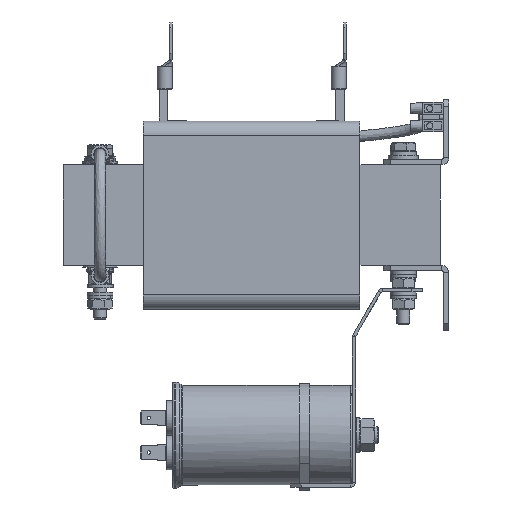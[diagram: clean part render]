
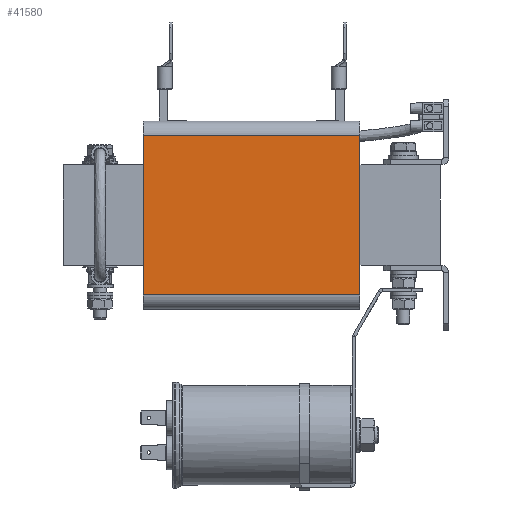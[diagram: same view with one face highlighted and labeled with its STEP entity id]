
A CAD part, left-side view. The second image highlights one B-rep face of the part: STEP entity #41580.
In plain terms, the highlighted planar face has unit normal (-1, 0, 0).
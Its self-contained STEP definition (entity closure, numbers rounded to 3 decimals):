
#2925=PLANE('',#44662);
#4946=FACE_OUTER_BOUND('',#7387,.T.);
#7387=EDGE_LOOP('',(#35553,#35554,#35555,#35556));
#9363=LINE('',#56562,#12970);
#12182=LINE('',#70941,#15789);
#12183=LINE('',#70945,#15790);
#12184=LINE('',#70946,#15791);
#12970=VECTOR('',#46118,10.);
#15789=VECTOR('',#53735,10.);
#15790=VECTOR('',#53740,10.);
#15791=VECTOR('',#53741,10.);
#16571=VERTEX_POINT('',#56559);
#16572=VERTEX_POINT('',#56561);
#19592=VERTEX_POINT('',#70940);
#19593=VERTEX_POINT('',#70944);
#20555=EDGE_CURVE('',#16571,#16572,#9363,.T.);
#25049=EDGE_CURVE('',#16571,#19592,#12182,.T.);
#25051=EDGE_CURVE('',#16572,#19593,#12183,.T.);
#25052=EDGE_CURVE('',#19593,#19592,#12184,.T.);
#35553=ORIENTED_EDGE('',*,*,#25051,.F.);
#35554=ORIENTED_EDGE('',*,*,#20555,.F.);
#35555=ORIENTED_EDGE('',*,*,#25049,.T.);
#35556=ORIENTED_EDGE('',*,*,#25052,.F.);
#41580=ADVANCED_FACE('',(#4946),#2925,.T.);
#44662=AXIS2_PLACEMENT_3D('',#70943,#53738,#53739);
#46118=DIRECTION('',(0.,0.,1.));
#53735=DIRECTION('',(0.,-1.,0.));
#53738=DIRECTION('center_axis',(-1.,0.,0.));
#53739=DIRECTION('ref_axis',(0.,0.,1.));
#53740=DIRECTION('',(0.,-1.,0.));
#53741=DIRECTION('',(0.,0.,-1.));
#56559=CARTESIAN_POINT('',(-101.,50.,-36.8));
#56561=CARTESIAN_POINT('',(-101.,50.,36.8));
#56562=CARTESIAN_POINT('',(-101.,50.,36.8));
#70940=CARTESIAN_POINT('',(-101.,-50.,-36.8));
#70941=CARTESIAN_POINT('',(-101.,0.,-36.8));
#70943=CARTESIAN_POINT('Origin',(-101.,0.,-36.8));
#70944=CARTESIAN_POINT('',(-101.,-50.,36.8));
#70945=CARTESIAN_POINT('',(-101.,0.,36.8));
#70946=CARTESIAN_POINT('',(-101.,-50.,36.8));
